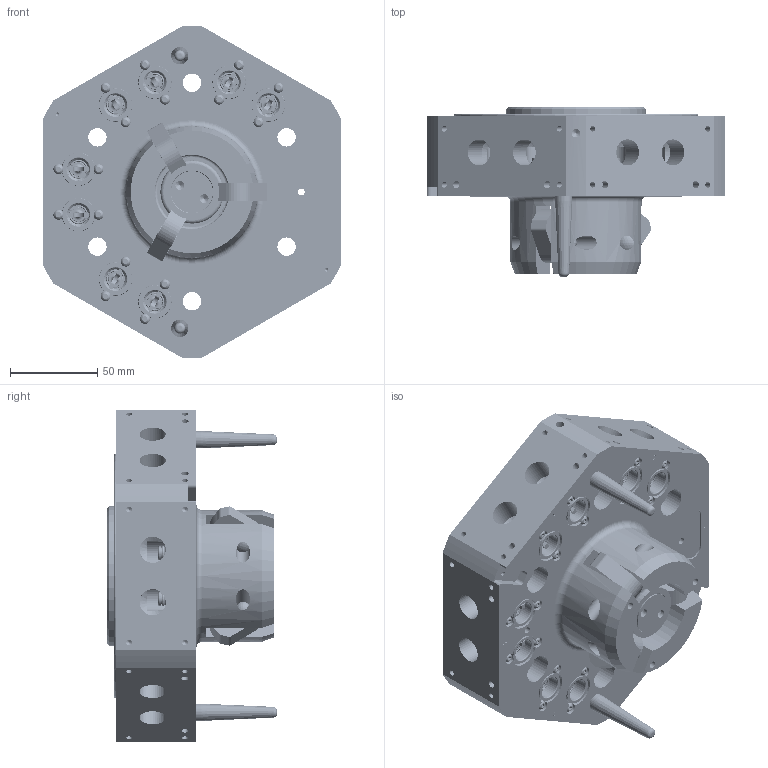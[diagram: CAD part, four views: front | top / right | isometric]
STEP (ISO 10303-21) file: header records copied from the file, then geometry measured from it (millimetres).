
FILE_DESCRIPTION (( 'STEP AP214' ), '1' );
FILE_NAME ('1604-D93A REV00.STEP', '2019-07-15T18:16:58', ( '' ), ( '' ), 'SwSTEP 2.0', 'SolidWorks 2019', '' );
FILE_SCHEMA (( 'AUTOMOTIVE_DESIGN' ));
Length unit declared in the file: millimetre
Products named in the file (37): 99502-C1059A; 48016_48016; 0104-B71N; 0104-B63N; 95500-C1069; 48427; 99500-B1045; 0109-P32N; 0601-P65N; 1604-D93A REV00; 1604-C94A; 0104-B59N; 1600-C05N; 98508-P1024; 0104-C62N; 0107-C47N; 1600-C04N; 0701-P16N; 1604-C95N; 0701-P17N; 0104-B64N; 49185; 89501-P1064; 1601-D29A; 49537; 1600-E03N; 89504-P1063; 88503-P1084; 0201-P78N; 0101-P08N
Assembly tree (104 placements, depth 3):
  1604-D93A REV00
    1601-D29A
      1600-E03N
      1600-C04N
      1600-C05N
      0104-B71N  x2
      0701-P16N
      48427  x2
      0701-P17N
      0109-P32N
      0104-B59N  x3
      0107-C47N  x3
      0104-C62N
      0104-B64N
      0104-B63N
      49185  x2
      0201-P78N
      48016_48016  x6
      49537  x3
    1604-C94A
      1604-C95N
      89504-P1063  x4
      0601-P65N  x2
    99502-C1059A
      99500-B1045
      95500-C1069
      0101-P08N
      89501-P1064
      98508-P1024
      88503-P1084  x2
    99502-C1059A
      99500-B1045
      95500-C1069
      0101-P08N
      89501-P1064
      98508-P1024
      88503-P1084  x2
    99502-C1059A
      99500-B1045
      95500-C1069
      0101-P08N
      89501-P1064
      98508-P1024
      88503-P1084  x2
    99502-C1059A
      99500-B1045
      95500-C1069
      0101-P08N
      89501-P1064
      98508-P1024
      88503-P1084  x2
    99502-C1059A
      99500-B1045
      95500-C1069
      0101-P08N
      89501-P1064
      98508-P1024
      88503-P1084  x2
    99502-C1059A
      99500-B1045
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Bounding box: 170 x 97 x 190 mm (x, y, z)
Volume: 1096051.9 mm3; surface area: 275802 mm2
Topology: 94 solids, 94 shells, 2737 faces, 6416 edges, 4000 vertices
Faces by surface type: plane 1034, cylinder 903, cone 390, bspline 198, torus 196, sphere 16
Entity records: 71568 total; most frequent: CARTESIAN_POINT 30668, DIRECTION 7818, ORIENTED_EDGE 7760, EDGE_CURVE 3880, AXIS2_PLACEMENT_3D 2950, VERTEX_POINT 2499, EDGE_LOOP 1921, VECTOR 1918
